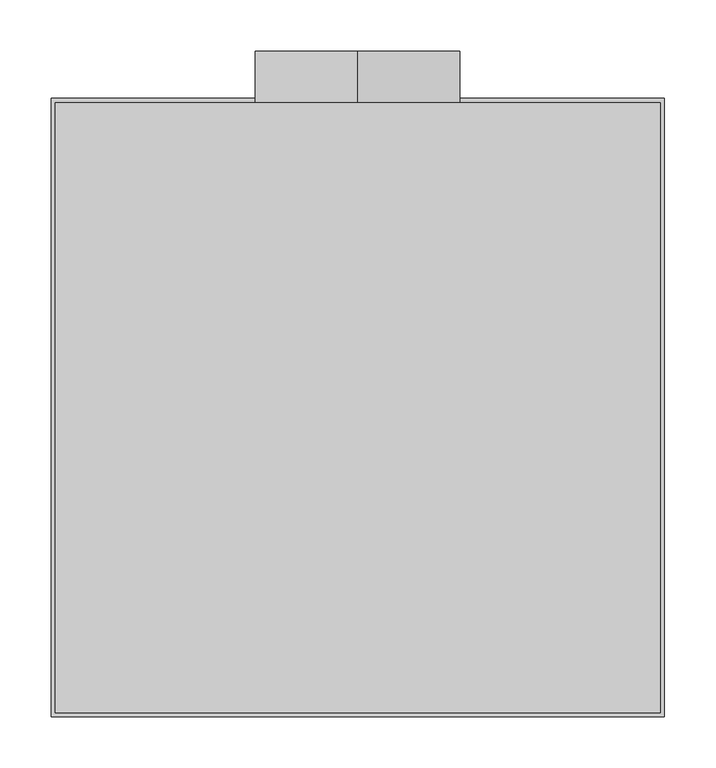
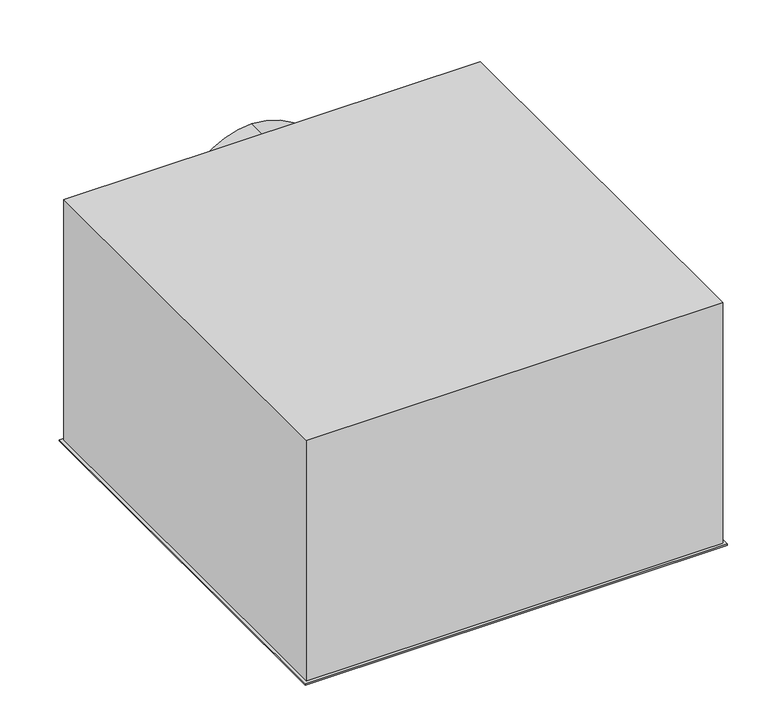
"""IFC4 building model written with IfcOpenShell, lengths in millimetres: air terminal geometry, EOL - plafonnier : EOL-P4-200-600x600."""

from ifc_helpers import new_model, si_unit, point, frame, frame_2d, origin, place, context, project, spatial, polyline, circle_curve, ellipse_curve, trimmed, segment, composite_curve, outline, extrude, source, transform, mapped, element, save
from ifc_brep_helpers import plane_surface, cylinder_surface, revolved_surface, advanced_brep


def air_terminal_87964066(model_context):
    return source(origin(), model_context, "Body", "SolidModel", [
        advanced_brep(
        [(42.3125856, 336.1251712, 26.7), (70.0, 363.8125856, 1.0), (70.0, 221.1874144, 1.0), (42.3125856, 248.8748288, 26.7), (42.3125856, 336.1251712, 35.0), (42.3125856, 248.8748288, 35.0), (43.3125856, 337.1251712, 26.77286), (43.3125856, 337.1251712, 35.0), (43.3125856, 247.8748288, 35.0), (43.3125856, 247.8748288, 26.77286), (70.0, 363.8125856, 2.0025269), (70.0, 221.1874144, 2.0025269), (-70.0, 221.1874144, 1.0), (-42.3125856, 248.8748288, 26.7), (-42.3125856, 248.8748288, 35.0), (-43.3125856, 247.8748288, 35.0), (-43.3125856, 247.8748288, 26.77286), (-70.0, 221.1874144, 2.0025269), (-70.0, 363.8125856, 1.0), (-42.3125856, 336.1251712, 26.7), (-42.3125856, 336.1251712, 35.0), (-43.3125856, 337.1251712, 35.0), (-43.3125856, 337.1251712, 26.77286), (-70.0, 363.8125856, 2.0025269)],
        [
            (0, 1, ellipse_curve(frame((72.1, 365.9125856, 31.0266548), z_axis=(0.7071067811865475, -0.7071067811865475, 0.0), x_axis=(0.7071067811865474, 0.7071067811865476, 0.0)), 42.5678282, 30.1)),
            (1, 2),
            (2, 3, ellipse_curve(frame((72.1, 219.0874144, 31.0266548), z_axis=(0.7071067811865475, 0.7071067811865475, 0.0), x_axis=(-0.7071067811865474, 0.7071067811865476, 0.0)), 42.5678282, 30.1)),
            (3, 0),
            (4, 0),
            (3, 5),
            (5, 4),
            (6, 7),
            (7, 8),
            (8, 9),
            (9, 6),
            (10, 6, ellipse_curve(frame((72.1, 365.9125856, 31.0266548), z_axis=(-0.7071067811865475, 0.7071067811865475, 0.0), x_axis=(-0.7071067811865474, -0.7071067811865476, 0.0)), 41.1536147, 29.1)),
            (9, 11, ellipse_curve(frame((72.1, 219.0874144, 31.0266548), z_axis=(-0.7071067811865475, -0.7071067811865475, 0.0), x_axis=(0.7071067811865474, -0.7071067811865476, 0.0)), 41.1536147, 29.1)),
            (11, 10),
            (1, 10),
            (11, 2),
            (2, 12),
            (12, 13, ellipse_curve(frame((-72.1, 219.0874144, 31.0266548), z_axis=(0.7071067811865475, -0.7071067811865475, 0.0), x_axis=(0.7071067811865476, 0.7071067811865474, 0.0)), 42.5678282, 30.1)),
            (13, 3),
            (13, 14),
            (14, 5),
            (8, 15),
            (15, 16),
            (16, 9),
            (16, 17, ellipse_curve(frame((-72.1, 219.0874144, 31.0266548), z_axis=(-0.7071067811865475, 0.7071067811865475, 0.0), x_axis=(-0.7071067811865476, -0.7071067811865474, 0.0)), 41.1536147, 29.1)),
            (17, 11),
            (17, 12),
            (12, 18),
            (18, 19, ellipse_curve(frame((-72.1, 365.9125856, 31.0266548), z_axis=(-0.7071067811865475, -0.7071067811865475, 0.0), x_axis=(0.7071067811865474, -0.7071067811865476, 0.0)), 42.5678282, 30.1)),
            (19, 13),
            (19, 20),
            (20, 14),
            (15, 21),
            (21, 22),
            (22, 16),
            (22, 23, ellipse_curve(frame((-72.1, 365.9125856, 31.0266548), z_axis=(0.7071067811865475, 0.7071067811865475, 0.0), x_axis=(-0.7071067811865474, 0.7071067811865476, 0.0)), 41.1536147, 29.1)),
            (23, 17),
            (23, 18),
            (18, 1),
            (0, 19),
            (4, 20),
            (7, 21),
            (6, 22),
            (10, 23),
        ],
        [
            cylinder_surface(frame((72.1, 335.8125856, 31.0266548), z_axis=(0.0, 1.0, 0.0), x_axis=(1.0, 0.0, 0.0)), 30.1),
            plane_surface(frame((42.3125856, 336.1251712, 26.7), z_axis=(-1.0, 0.0, 0.0), x_axis=(0.0, -1.0, 0.0))),
            plane_surface(frame((43.3125856, 337.1251712, 35.0), z_axis=(1.0, 0.0, 0.0), x_axis=(0.0, -1.0, 0.0))),
            revolved_surface(polyline([(101.19999999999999, 189.98741437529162, 31.0266548), (101.19999999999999, 395.0125856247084, 31.0266548)]), (72.1, 335.8125856, 31.0266548), (0.0, -1.0, 0.0)),
            plane_surface(frame((70.0, 363.8125856, 2.0025269), z_axis=(1.0, 0.0, 0.0), x_axis=(0.0, -1.0, 0.0))),
            cylinder_surface(frame((42.0, 219.0874144, 31.0266548), z_axis=(1.0, 0.0, 0.0), x_axis=(0.0, -1.0, 0.0)), 30.1),
            plane_surface(frame((42.3125856, 248.8748288, 26.7), z_axis=(0.0, 1.0, 0.0), x_axis=(-1.0, 0.0, 0.0))),
            plane_surface(frame((43.3125856, 247.8748288, 35.0), z_axis=(0.0, -1.0, 0.0), x_axis=(-1.0, 0.0, 0.0))),
            revolved_surface(polyline([(-101.20000002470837, 189.9874144, 31.0266548), (101.20000002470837, 189.9874144, 31.0266548)]), (42.0, 219.0874144, 31.0266548), (-1.0, 0.0, 0.0)),
            plane_surface(frame((70.0, 221.1874144, 2.0025269), z_axis=(0.0, -1.0, 0.0), x_axis=(-1.0, 0.0, 0.0))),
            cylinder_surface(frame((-72.1, 249.1874144, 31.0266548), z_axis=(0.0, -1.0, 0.0), x_axis=(-1.0, 0.0, 0.0)), 30.1),
            plane_surface(frame((-42.3125856, 248.8748288, 26.7), z_axis=(1.0, 0.0, 0.0), x_axis=(0.0, 1.0, 0.0))),
            plane_surface(frame((-43.3125856, 247.8748288, 35.0), z_axis=(-1.0, 0.0, 0.0), x_axis=(0.0, 1.0, 0.0))),
            revolved_surface(polyline([(-101.19999999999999, 395.0125856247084, 31.0266548), (-101.19999999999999, 189.98741437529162, 31.0266548)]), (-72.1, 249.1874144, 31.0266548), (0.0, 1.0, 0.0)),
            plane_surface(frame((-70.0, 221.1874144, 2.0025269), z_axis=(-1.0, 0.0, 0.0), x_axis=(0.0, 1.0, 0.0))),
            cylinder_surface(frame((-42.0, 365.9125856, 31.0266548), z_axis=(-1.0, 0.0, 0.0), x_axis=(0.0, 1.0, 0.0)), 30.1),
            plane_surface(frame((-42.3125856, 336.1251712, 26.7), z_axis=(0.0, -1.0, 0.0), x_axis=(1.0, 0.0, 0.0))),
            plane_surface(frame((-42.3125856, 336.1251712, 35.0), z_axis=(0.0, 0.0, 1.0), x_axis=(1.0, 0.0, 0.0))),
            plane_surface(frame((-43.3125856, 337.1251712, 35.0), z_axis=(0.0, 1.0, 0.0), x_axis=(1.0, 0.0, 0.0))),
            revolved_surface(polyline([(101.20000002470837, 395.0125856, 31.0266548), (-101.20000002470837, 395.0125856, 31.0266548)]), (-42.0, 365.9125856, 31.0266548), (1.0, 0.0, 0.0)),
            plane_surface(frame((-70.0, 363.8125856, 2.0025269), z_axis=(0.0, 1.0, 0.0), x_axis=(1.0, 0.0, 0.0))),
        ],
        [
            (0, [[1, 2, 3, 4]]),
            (1, [[5, -4, 6, 7]]),
            (2, [[8, 9, 10, 11]]),
            (3, [[12, -11, 13, 14]]),
            (4, [[15, -14, 16, -2]]),
            (5, [[-3, 17, 18, 19]]),
            (6, [[-6, -19, 20, 21]]),
            (7, [[-10, 22, 23, 24]]),
            (8, [[-13, -24, 25, 26]]),
            (9, [[-16, -26, 27, -17]]),
            (10, [[-18, 28, 29, 30]]),
            (11, [[-20, -30, 31, 32]]),
            (12, [[-23, 33, 34, 35]]),
            (13, [[-25, -35, 36, 37]]),
            (14, [[-27, -37, 38, -28]]),
            (15, [[-29, 39, -1, 40]]),
            (16, [[-31, -40, -5, 41]]),
            (17, [[42, -33, -22, -9], [-21, -32, -41, -7]]),
            (18, [[-34, -42, -8, 43]]),
            (19, [[-36, -43, -12, 44]]),
            (20, [[-38, -44, -15, -39]]),
        ],
    ),
        extrude(outline(polyline([(299.0, 594.0), (299.0, -9.0), (-299.0, -9.0), (-299.0, 594.0), (299.0, 594.0)]), holes=[polyline([(290.0, 585.0), (-290.0, 585.0), (-290.0, 0.0), (290.0, 0.0), (290.0, 585.0)])]), frame((0.0, 0.0, -2.0), z_axis=(0.0, 0.0, 1.0), x_axis=(1.0, 0.0, 0.0)), (0.0, 0.0, 1.0), 2.0),
        extrude(outline(composite_curve([segment(trimmed(circle_curve(frame_2d((241.0, 0.0)), 100.0), [point((141.0, 0.0))], [point((341.0, 0.0))], False, "CARTESIAN"), True, "CONTINUOUS"), segment(trimmed(circle_curve(frame_2d((241.0, 0.0)), 100.0), [point((341.0, 0.0))], [point((141.0, 0.0))], False, "CARTESIAN"), True, "CONTINUOUS")], self_intersect=False), holes=[composite_curve([segment(trimmed(circle_curve(frame_2d((241.0, 0.0)), 99.0), [point((241.0, 99.0))], [point((241.0, -99.0))], True, "CARTESIAN"), True, "CONTINUOUS"), segment(trimmed(circle_curve(frame_2d((241.0, 0.0)), 99.0), [point((241.0, -99.0))], [point((241.0, 99.0))], True, "CARTESIAN"), True, "CONTINUOUS")], self_intersect=False)]), frame((0.0, 590.0, 0.0), z_axis=(0.0, 1.0, 0.0), x_axis=(0.0, 0.0, 1.0)), (0.0, 0.0, 1.0), 50.0),
        advanced_brep(
        [(295.0, 590.0, 361.0), (-295.0, 590.0, 361.0), (-295.0, -5.0, 361.0), (295.0, -5.0, 361.0), (295.0, 590.0, 0.0), (295.0, -5.0, 0.0), (-295.0, -5.0, 0.0), (-295.0, 590.0, 0.0), (290.0, 585.0, 0.0), (-290.0, 585.0, 0.0), (-290.0, 0.0, 0.0), (290.0, 0.0, 0.0), (-99.0, 590.0, 241.0), (99.0, 590.0, 241.0), (290.0, 585.0, 356.0), (290.0, 0.0, 356.0), (-290.0, 0.0, 356.0), (-290.0, 585.0, 356.0), (99.0, 585.0, 241.0), (-99.0, 585.0, 241.0)],
        [
            (0, 1),
            (1, 2),
            (2, 3),
            (3, 0),
            (4, 5),
            (5, 6),
            (6, 7),
            (7, 4),
            (8, 9),
            (9, 10),
            (10, 11),
            (11, 8),
            (0, 4),
            (7, 1),
            (12, 13, circle_curve(frame((0.0, 590.0, 241.0), z_axis=(0.0, -1.0, 0.0), x_axis=(1.0, 0.0, 0.0)), 99.0)),
            (13, 12, circle_curve(frame((0.0, 590.0, 241.0), z_axis=(0.0, -1.0, 0.0), x_axis=(1.0, 0.0, 0.0)), 99.0)),
            (6, 2),
            (5, 3),
            (14, 15),
            (15, 16),
            (16, 17),
            (17, 14),
            (17, 9),
            (8, 14),
            (18, 19, circle_curve(frame((0.0, 585.0, 241.0), z_axis=(0.0, 1.0, 0.0), x_axis=(1.0, 0.0, 0.0)), 99.0)),
            (19, 18, circle_curve(frame((0.0, 585.0, 241.0), z_axis=(0.0, 1.0, 0.0), x_axis=(1.0, 0.0, 0.0)), 99.0)),
            (16, 10),
            (15, 11),
            (12, 19),
            (18, 13),
        ],
        [
            plane_surface(frame((-295.0, 590.0, 361.0), z_axis=(0.0, 0.0, 1.0), x_axis=(-1.0, 0.0, 0.0))),
            plane_surface(frame((-295.0, 590.0, 0.0), z_axis=(0.0, 0.0, -1.0), x_axis=(1.0, 0.0, 0.0))),
            plane_surface(frame((295.0, 590.0, 361.0), z_axis=(0.0, 1.0, 0.0), x_axis=(0.0, 0.0, -1.0))),
            plane_surface(frame((-295.0, 590.0, 361.0), z_axis=(-1.0, 0.0, 0.0), x_axis=(0.0, 0.0, -1.0))),
            plane_surface(frame((-295.0, -5.0, 361.0), z_axis=(0.0, -1.0, 0.0), x_axis=(0.0, 0.0, -1.0))),
            plane_surface(frame((295.0, -5.0, 361.0), z_axis=(1.0, 0.0, 0.0), x_axis=(0.0, 0.0, -1.0))),
            plane_surface(frame((-290.0, 585.0, 356.0), z_axis=(0.0, 0.0, -1.0), x_axis=(-1.0, 0.0, 0.0))),
            plane_surface(frame((290.0, 585.0, 356.0), z_axis=(0.0, -1.0, 0.0), x_axis=(0.0, 0.0, -1.0))),
            plane_surface(frame((-290.0, 585.0, 356.0), z_axis=(1.0, 0.0, 0.0), x_axis=(0.0, 0.0, -1.0))),
            plane_surface(frame((-290.0, 0.0, 356.0), z_axis=(0.0, 1.0, 0.0), x_axis=(0.0, 0.0, -1.0))),
            plane_surface(frame((290.0, 0.0, 356.0), z_axis=(-1.0, 0.0, 0.0), x_axis=(0.0, 0.0, -1.0))),
            revolved_surface(polyline([(99.0, 585.0, 241.0), (99.0, 590.0, 241.0)]), (0.0, 640.0, 241.0), (0.0, -1.0, 0.0)),
        ],
        [
            (0, [[1, 2, 3, 4]]),
            (1, [[5, 6, 7, 8], [9, 10, 11, 12]]),
            (2, [[-1, 13, -8, 14], [15, 16]]),
            (3, [[-2, -14, -7, 17]]),
            (4, [[-3, -17, -6, 18]]),
            (5, [[-4, -18, -5, -13]]),
            (6, [[19, 20, 21, 22]]),
            (7, [[-22, 23, -9, 24], [25, 26]]),
            (8, [[-21, 27, -10, -23]]),
            (9, [[-20, 28, -11, -27]]),
            (10, [[-19, -24, -12, -28]]),
            (11, [[29, -25, 30, -15]]),
            (11, [[-29, -16, -30, -26]]),
        ],
    ),
    ])


if __name__ == "__main__":
    model = new_model("IFC4")
    model_context = context("Model", 3, world=origin())
    ifc_project = project(units=[si_unit("LENGTHUNIT", "METRE", prefix="MILLI")], contexts=[model_context])
    site = spatial("IfcSite", under=ifc_project)
    building = spatial("IfcBuilding", under=site)
    placement = place(None, origin())
    air_terminal_shape = air_terminal_87964066(model_context)
    element("IfcAirTerminal", 1, ObjectType="EOL - plafonnier : EOL-P4-200-600x600", at=placement, inside=building, context=model_context, shape_type="MappedRepresentation", body=[
        mapped(air_terminal_shape, transform((0.0, 0.0, 0.0), x_axis=(1.0, 0.0, 0.0), y_axis=(0.0, 1.0, 0.0), z_axis=(0.0, 0.0, 1.0))),
    ])
    save(model, "model.ifc")
